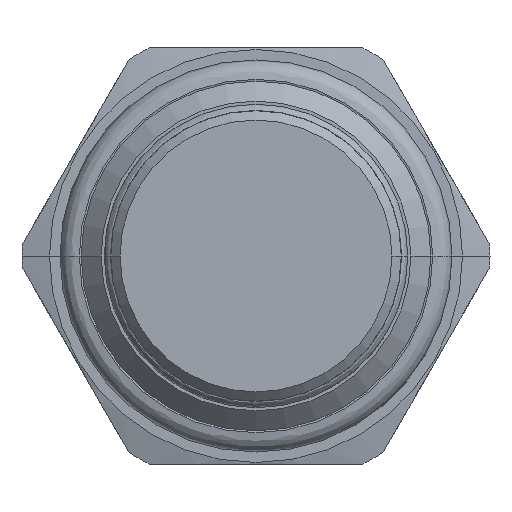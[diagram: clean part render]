
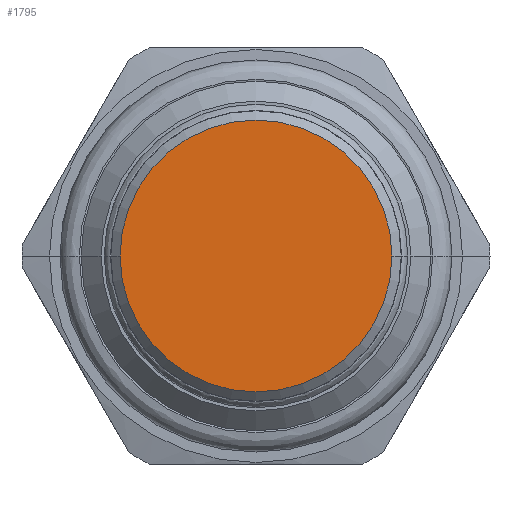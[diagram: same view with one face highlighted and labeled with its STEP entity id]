
A CAD part, front view. The second image highlights one B-rep face of the part: STEP entity #1795.
In plain terms, the highlighted planar face has unit normal (0, -1, 0).
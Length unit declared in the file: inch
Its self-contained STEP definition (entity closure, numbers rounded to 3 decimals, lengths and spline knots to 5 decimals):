
#179=CARTESIAN_POINT('',(0.,-1.81,0.));
#180=DIRECTION('',(0.,-1.,0.));
#181=DIRECTION('',(-1.,0.,0.));
#182=AXIS2_PLACEMENT_3D('',#179,#180,#181);
#203=CARTESIAN_POINT('',(0.,-1.81,0.));
#204=DIRECTION('',(0.,1.,0.));
#205=DIRECTION('',(-1.,0.,0.));
#206=AXIS2_PLACEMENT_3D('',#203,#204,#205);
#1428=CARTESIAN_POINT('',(-0.408,-1.81,0.));
#1429=CARTESIAN_POINT('',(0.408,-1.81,0.));
#1430=VERTEX_POINT('',#1428);
#1431=VERTEX_POINT('',#1429);
#1786=CARTESIAN_POINT('',(0.,-1.81,0.));
#1787=DIRECTION('',(0.,1.,0.));
#1788=DIRECTION('',(1.,0.,0.));
#1789=AXIS2_PLACEMENT_3D('',#1786,#1787,#1788);
#1790=PLANE('',#1789);
#1791=ORIENTED_EDGE('',*,*,#1764,.F.);
#1792=ORIENTED_EDGE('',*,*,#1780,.T.);
#1793=EDGE_LOOP('',(#1791,#1792));
#1794=FACE_OUTER_BOUND('',#1793,.F.);
#1795=ADVANCED_FACE('',(#1794),#1790,.F.);
#183=CIRCLE('',#182,0.408);
#207=CIRCLE('',#206,0.408);
#1764=EDGE_CURVE('',#1430,#1431,#183,.T.);
#1780=EDGE_CURVE('',#1430,#1431,#207,.T.);
